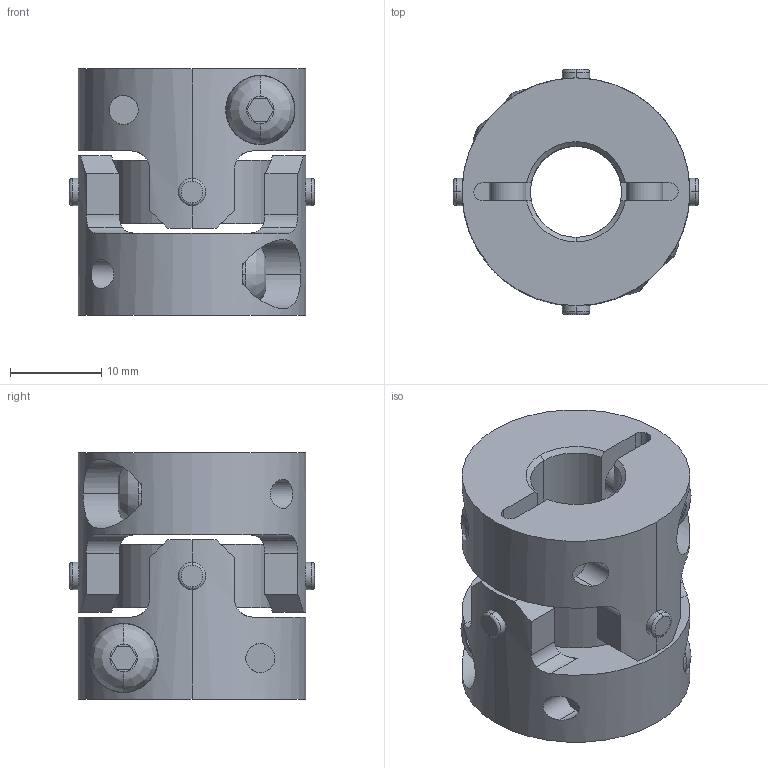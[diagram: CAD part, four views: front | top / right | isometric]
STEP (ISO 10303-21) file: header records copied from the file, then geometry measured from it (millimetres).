
FILE_DESCRIPTION((''),'2;1');
FILE_NAME('UA-25C-10×10.stp','2013-05-16T09:33:25',(''),(''),'AutoCAD STEP 2000i','AutoCAD 2000i',', , ');
FILE_SCHEMA(('CONFIG_CONTROL_DESIGN'));
Length unit declared in the file: millimetre
Products named in the file (8): UA-25C-9×9; 忣兜1; UA-2502-D09-1; BTN-M4; UA-2502-D09; UA-2502-D05-1; UA-2502-D05; UA25-SEN
Assembly tree (10 placements, depth 3):
  UA-25C-9×9
    忣兜1
    UA-2502-D09-1
      BTN-M4
    UA-2502-D09
      BTN-M4
    UA-2502-D05-1
      BTN-M4
    UA-2502-D05
      BTN-M4
    UA25-SEN
Bounding box: 26.89 x 26.89 x 27 mm (x, y, z)
Volume: 8759.8 mm3; surface area: 6263.4 mm2
Topology: 1 solids, 1 shells, 210 faces, 570 edges, 372 vertices
Faces by surface type: cylinder 96, plane 82, cone 16, bspline 8, torus 8
Entity records: 8479 total; most frequent: CARTESIAN_POINT 2991, ORIENTED_EDGE 1140, DIRECTION 1104, EDGE_CURVE 570, AXIS2_PLACEMENT_3D 425, VERTEX_POINT 372, VECTOR 254, LINE 254
